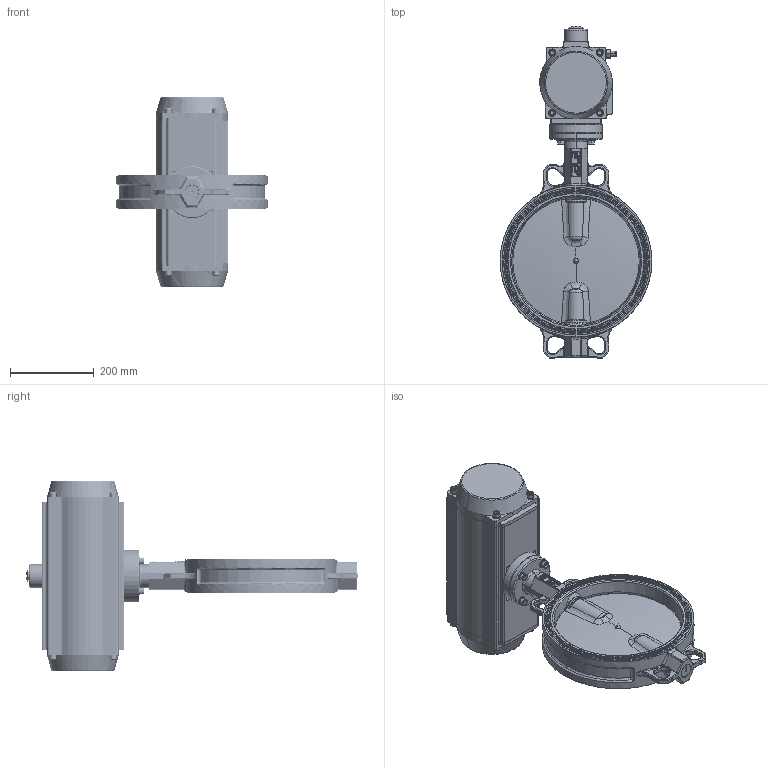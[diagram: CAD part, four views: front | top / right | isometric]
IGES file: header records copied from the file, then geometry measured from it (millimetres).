
Start section: SolidWorks IGES file using NURBS representation for surfaces
Global section: file name: H:\BE BIBLIOTHEQUE 3D\VPN-03 PNEUMATIC ACTUATOR (DN40 à 300)\VPN-03 DN300\VPN-03 DN300.IGS; native system: SolidWorks 2011; preprocessor: SolidWorks 2011; author: a.cartier; date: 140620.105310; units: millimetre
Bounding box: 363.5 x 795.07 x 456 mm (x, y, z)
Volume: 9505376.6 mm3; surface area: 1729494 mm2
Topology: 68 solids, 69 shells, 5186 faces, 13190 edges, 8481 vertices
Faces by surface type: bspline 5186
